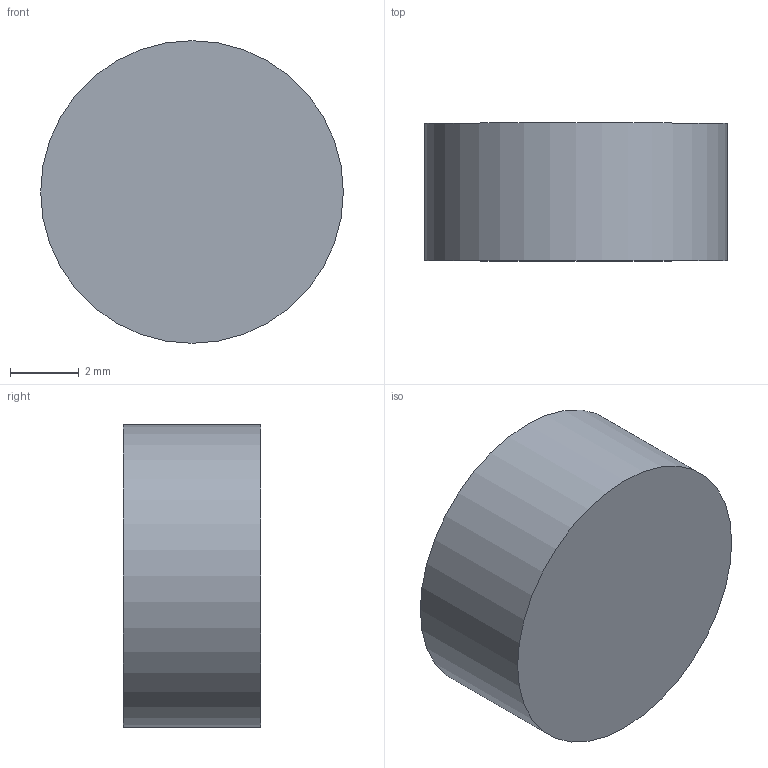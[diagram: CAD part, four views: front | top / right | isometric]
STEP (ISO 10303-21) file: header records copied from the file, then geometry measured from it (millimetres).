
FILE_DESCRIPTION(/* description */ ('STEP AP242 Edition 2','CAx-IF Rec.Pracs.---Representation and Presentation of Product Manufacturing Information (PMI)---4.0---2014-10-13','CAx-IF Rec.Pracs.---3D Tessellated Geometry---0.4---2014-09-14','2;1','CAx-IF Rec.Pracs.---User Defined Attributes---1.5---2016-08-15'),/* implementation_level */ '2;1');
FILE_NAME(/* name */ 'bb_v3 - button',/* time_stamp */ '2026-05-01T07:59:49Z',/* author */ (''),/* organization */ (''),/* preprocessor_version */ 'ST-DEVELOPER v20',/* originating_system */ 'ONSHAPE BY PTC INC, 1.214',/* authorisation */ ' ');
FILE_SCHEMA (('AP242_MANAGED_MODEL_BASED_3D_ENGINEERING_MIM_LF { 1 0 10303 442 3 1 4 }'));
Length unit declared in the file: metre
Products named in the file (1): button
Bounding box: 8.8 x 4 x 8.8 mm (x, y, z)
Volume: 243.3 mm3; surface area: 232.2 mm2
Topology: 1 solids, 1 shells, 3 faces, 3 edges, 2 vertices
Faces by surface type: plane 2, cylinder 1
Full cylindrical faces by diameter (mm): 8.8 x1
Entity records: 76 total; most frequent: DIRECTION 12, CARTESIAN_POINT 8, AXIS2_PLACEMENT_3D 6, ORIENTED_EDGE 4, EDGE_LOOP 4, FACE_BOUND 4, ADVANCED_FACE 3, PLANE 2
